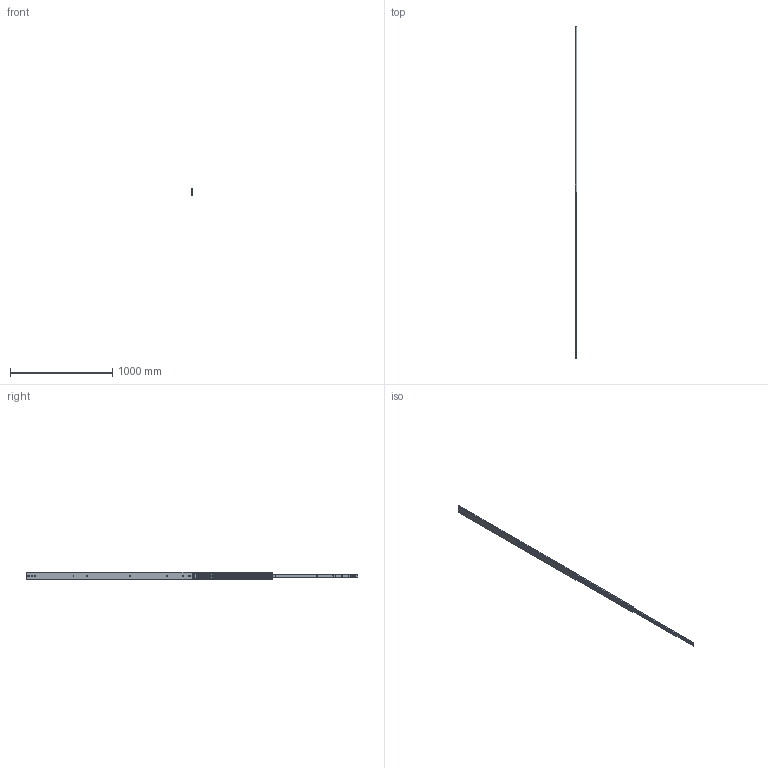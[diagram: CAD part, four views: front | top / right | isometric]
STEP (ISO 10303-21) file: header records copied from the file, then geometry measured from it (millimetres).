
FILE_DESCRIPTION(/* description */ ('Unknown'),/* implementation_level */ '2;1');
FILE_NAME(/* name */ '76J01-64 open',/* time_stamp */ '2024-07-30T14:13:33+08:00',/* author */ ('Unknown'),/* organization */ ('Unknown'),/* preprocessor_version */ 'ST-DEVELOPER v18.104',/* originating_system */ 'Solid Edge',/* authorisation */ 'Unknown');
FILE_SCHEMA (('AUTOMOTIVE_DESIGN {1 0 10303 214 3 1 1}'));
Length unit declared in the file: millimetre
Products named in the file (4): 76J01-64 open; 76J01 64 inch ､ｺ_0*ﾖ; 76J01 64 吋中_; 76J01 64 吋
Assembly tree (3 placements, depth 2):
  76J01-64 open
    76J01 64 inch ､ｺ_0*ﾖ
    76J01 64 吋中_
    76J01 64 吋
Bounding box: 19.3 x 3250.5 x 76.72 mm (x, y, z)
Volume: 1286541.9 mm3; surface area: 799466.3 mm2
Topology: 3 solids, 3 shells, 196 faces, 606 edges, 410 vertices
Faces by surface type: plane 104, cylinder 92
Full cylindrical faces by diameter (mm): 5.2 x16, 7.1 x2
Entity records: 7179 total; most frequent: CARTESIAN_POINT 1168, DIRECTION 1152, ORIENTED_EDGE 1140, EDGE_CURVE 570, VERTEX_POINT 392, LINE 384, VECTOR 384, AXIS2_PLACEMENT_3D 384
